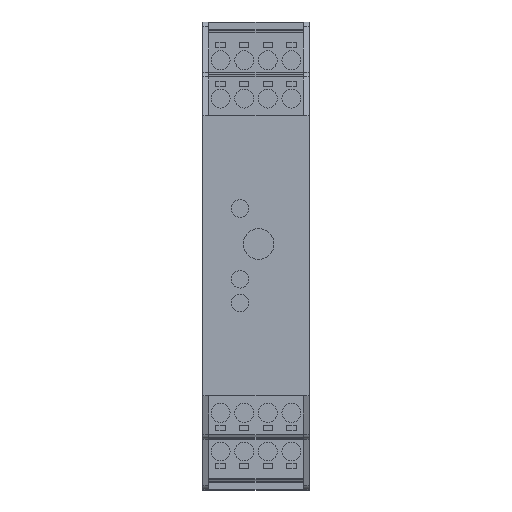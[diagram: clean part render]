
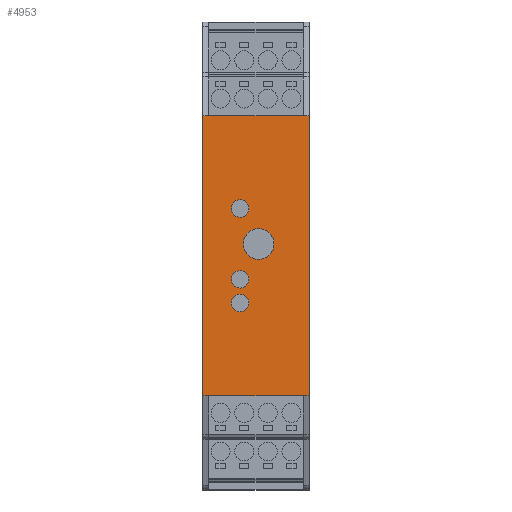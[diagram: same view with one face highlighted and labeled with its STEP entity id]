
A CAD part, top view. The second image highlights one B-rep face of the part: STEP entity #4953.
In plain terms, the highlighted planar face has unit normal (0, 0, 1).
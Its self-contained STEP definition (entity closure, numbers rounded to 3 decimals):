
#2009 = EDGE_CURVE( '', #2167, #3805, #5983, .T. );
#2109 = EDGE_CURVE( '', #5893, #4827, #6093, .T. );
#2167 = VERTEX_POINT( '', #6159 );
#2217 = VERTEX_POINT( '', #6213 );
#2679 = EDGE_CURVE( '', #4211, #5145, #6723, .T. );
#2977 = EDGE_CURVE( '', #3017, #3595, #7062, .T. );
#3017 = VERTEX_POINT( '', #7108 );
#3109 = VERTEX_POINT( '', #7210 );
#3555 = EDGE_CURVE( '', #5473, #5711, #7699, .T. );
#3561 = EDGE_CURVE( '', #5145, #3017, #7706, .T. );
#3595 = VERTEX_POINT( '', #7743 );
#3739 = VERTEX_POINT( '', #7898 );
#3757 = EDGE_CURVE( '', #3805, #2167, #7918, .T. );
#3805 = VERTEX_POINT( '', #7969 );
#4141 = EDGE_CURVE( '', #5729, #5861, #8335, .T. );
#4211 = VERTEX_POINT( '', #8412 );
#4255 = VERTEX_POINT( '', #8462 );
#4289 = EDGE_CURVE( '', #5711, #5473, #8498, .T. );
#4563 = EDGE_CURVE( '', #3109, #2217, #8811, .T. );
#4827 = VERTEX_POINT( '', #9093 );
#4915 = EDGE_CURVE( '', #4827, #5729, #9188, .T. );
#4953 = ADVANCED_FACE( '', ( #9228, #9229, #9230, #9231, #9232 ), #9233, .T. );
#5145 = VERTEX_POINT( '', #9441 );
#5215 = EDGE_CURVE( '', #3595, #5861, #9517, .T. );
#5225 = EDGE_CURVE( '', #4211, #5893, #9536, .T. );
#5227 = EDGE_CURVE( '', #2217, #3109, #9538, .T. );
#5297 = EDGE_CURVE( '', #4255, #3739, #9616, .T. );
#5473 = VERTEX_POINT( '', #9805 );
#5711 = VERTEX_POINT( '', #10090 );
#5725 = EDGE_CURVE( '', #3739, #4255, #10106, .T. );
#5729 = VERTEX_POINT( '', #10110 );
#5861 = VERTEX_POINT( '', #10259 );
#5893 = VERTEX_POINT( '', #10293 );
#5983 = CIRCLE( '', #10382, 1.85 );
#6093 = LINE( '', #10537, #10538 );
#6159 = CARTESIAN_POINT( '', ( 9.75, 10., 107.9 ) );
#6213 = CARTESIAN_POINT( '', ( 9.75, -10., 107.9 ) );
#6723 = LINE( '', #11419, #11420 );
#7062 = LINE( '', #11894, #11895 );
#7108 = CARTESIAN_POINT( '', ( 1.2, 29.6, 107.9 ) );
#7210 = CARTESIAN_POINT( '', ( 6.05, -10., 107.9 ) );
#7699 = CIRCLE( '', #12812, 3.25 );
#7706 = LINE( '', #12820, #12821 );
#7743 = CARTESIAN_POINT( '', ( 0., 29.6, 107.9 ) );
#7898 = CARTESIAN_POINT( '', ( 6.05, -5., 107.9 ) );
#7918 = CIRCLE( '', #13127, 1.85 );
#7969 = CARTESIAN_POINT( '', ( 6.05, 10., 107.9 ) );
#8335 = LINE( '', #13716, #13717 );
#8412 = CARTESIAN_POINT( '', ( 22.5, 29.6, 107.9 ) );
#8462 = CARTESIAN_POINT( '', ( 9.75, -5., 107.9 ) );
#8498 = CIRCLE( '', #13946, 3.25 );
#8811 = CIRCLE( '', #14367, 1.85 );
#9093 = CARTESIAN_POINT( '', ( 21.3, -29.6, 107.9 ) );
#9188 = LINE( '', #14898, #14899 );
#9228 = FACE_BOUND( '', #14957, .T. );
#9229 = FACE_BOUND( '', #14958, .T. );
#9230 = FACE_BOUND( '', #14959, .T. );
#9231 = FACE_BOUND( '', #14960, .T. );
#9232 = FACE_OUTER_BOUND( '', #14961, .T. );
#9233 = PLANE( '', #14962 );
#9441 = CARTESIAN_POINT( '', ( 21.3, 29.6, 107.9 ) );
#9517 = LINE( '', #15381, #15382 );
#9536 = LINE( '', #15404, #15405 );
#9538 = CIRCLE( '', #15408, 1.85 );
#9616 = CIRCLE( '', #15515, 1.85 );
#9805 = CARTESIAN_POINT( '', ( 15.05, 2.5, 107.9 ) );
#10090 = CARTESIAN_POINT( '', ( 8.55, 2.5, 107.9 ) );
#10106 = CIRCLE( '', #16204, 1.85 );
#10110 = CARTESIAN_POINT( '', ( 1.2, -29.6, 107.9 ) );
#10259 = CARTESIAN_POINT( '', ( 0., -29.6, 107.9 ) );
#10293 = CARTESIAN_POINT( '', ( 22.5, -29.6, 107.9 ) );
#10382 = AXIS2_PLACEMENT_3D( '', #16577, #16578, #16579 );
#10537 = CARTESIAN_POINT( '', ( 22.5, -29.6, 107.9 ) );
#10538 = VECTOR( '', #16699, 1. );
#11419 = CARTESIAN_POINT( '', ( 22.5, 29.6, 107.9 ) );
#11420 = VECTOR( '', #17346, 1. );
#11894 = CARTESIAN_POINT( '', ( 22.5, 29.6, 107.9 ) );
#11895 = VECTOR( '', #17734, 1. );
#12812 = AXIS2_PLACEMENT_3D( '', #18448, #18449, #18450 );
#12820 = CARTESIAN_POINT( '', ( 22.5, 29.6, 107.9 ) );
#12821 = VECTOR( '', #18459, 1. );
#13127 = AXIS2_PLACEMENT_3D( '', #18661, #18662, #18663 );
#13716 = CARTESIAN_POINT( '', ( 22.5, -29.6, 107.9 ) );
#13717 = VECTOR( '', #19066, 1. );
#13946 = AXIS2_PLACEMENT_3D( '', #19235, #19236, #19237 );
#14367 = AXIS2_PLACEMENT_3D( '', #19613, #19614, #19615 );
#14898 = CARTESIAN_POINT( '', ( 22.5, -29.6, 107.9 ) );
#14899 = VECTOR( '', #19922, 1. );
#14957 = EDGE_LOOP( '', ( #19954, #19955 ) );
#14958 = EDGE_LOOP( '', ( #19956, #19957 ) );
#14959 = EDGE_LOOP( '', ( #19958, #19959 ) );
#14960 = EDGE_LOOP( '', ( #19960, #19961 ) );
#14961 = EDGE_LOOP( '', ( #19962, #19963, #19964, #19965, #19966, #19967, #19968, #19969 ) );
#14962 = AXIS2_PLACEMENT_3D( '', #19970, #19971, #19972 );
#15381 = CARTESIAN_POINT( '', ( 0., 29.6, 107.9 ) );
#15382 = VECTOR( '', #20233, 1. );
#15404 = CARTESIAN_POINT( '', ( 22.5, 29.6, 107.9 ) );
#15405 = VECTOR( '', #20267, 1. );
#15408 = AXIS2_PLACEMENT_3D( '', #20268, #20269, #20270 );
#15515 = AXIS2_PLACEMENT_3D( '', #20361, #20362, #20363 );
#16204 = AXIS2_PLACEMENT_3D( '', #20944, #20945, #20946 );
#16577 = CARTESIAN_POINT( '', ( 7.9, 10., 107.9 ) );
#16578 = DIRECTION( '', ( 0., 0., -1. ) );
#16579 = DIRECTION( '', ( 1., 0., 0. ) );
#16699 = DIRECTION( '', ( -1., 0., 0. ) );
#17346 = DIRECTION( '', ( -1., 0., 0. ) );
#17734 = DIRECTION( '', ( -1., 0., 0. ) );
#18448 = CARTESIAN_POINT( '', ( 11.8, 2.5, 107.9 ) );
#18449 = DIRECTION( '', ( 0., 0., -1. ) );
#18450 = DIRECTION( '', ( 1., 0., 0. ) );
#18459 = DIRECTION( '', ( -1., 0., 0. ) );
#18661 = CARTESIAN_POINT( '', ( 7.9, 10., 107.9 ) );
#18662 = DIRECTION( '', ( 0., 0., -1. ) );
#18663 = DIRECTION( '', ( 1., 0., 0. ) );
#19066 = DIRECTION( '', ( -1., 0., 0. ) );
#19235 = CARTESIAN_POINT( '', ( 11.8, 2.5, 107.9 ) );
#19236 = DIRECTION( '', ( 0., 0., -1. ) );
#19237 = DIRECTION( '', ( 1., 0., 0. ) );
#19613 = CARTESIAN_POINT( '', ( 7.9, -10., 107.9 ) );
#19614 = DIRECTION( '', ( 0., 0., -1. ) );
#19615 = DIRECTION( '', ( 1., 0., 0. ) );
#19922 = DIRECTION( '', ( -1., 0., 0. ) );
#19954 = ORIENTED_EDGE( '', *, *, #3555, .T. );
#19955 = ORIENTED_EDGE( '', *, *, #4289, .T. );
#19956 = ORIENTED_EDGE( '', *, *, #2009, .T. );
#19957 = ORIENTED_EDGE( '', *, *, #3757, .T. );
#19958 = ORIENTED_EDGE( '', *, *, #5227, .T. );
#19959 = ORIENTED_EDGE( '', *, *, #4563, .T. );
#19960 = ORIENTED_EDGE( '', *, *, #5297, .T. );
#19961 = ORIENTED_EDGE( '', *, *, #5725, .T. );
#19962 = ORIENTED_EDGE( '', *, *, #5215, .T. );
#19963 = ORIENTED_EDGE( '', *, *, #4141, .F. );
#19964 = ORIENTED_EDGE( '', *, *, #4915, .F. );
#19965 = ORIENTED_EDGE( '', *, *, #2109, .F. );
#19966 = ORIENTED_EDGE( '', *, *, #5225, .F. );
#19967 = ORIENTED_EDGE( '', *, *, #2679, .T. );
#19968 = ORIENTED_EDGE( '', *, *, #3561, .T. );
#19969 = ORIENTED_EDGE( '', *, *, #2977, .T. );
#19970 = CARTESIAN_POINT( '', ( 22.5, 29.6, 107.9 ) );
#19971 = DIRECTION( '', ( 0., 0., 1. ) );
#19972 = DIRECTION( '', ( 0., 1., 0. ) );
#20233 = DIRECTION( '', ( 0., -1., 0. ) );
#20267 = DIRECTION( '', ( 0., -1., 0. ) );
#20268 = CARTESIAN_POINT( '', ( 7.9, -10., 107.9 ) );
#20269 = DIRECTION( '', ( 0., 0., -1. ) );
#20270 = DIRECTION( '', ( 1., 0., 0. ) );
#20361 = CARTESIAN_POINT( '', ( 7.9, -5., 107.9 ) );
#20362 = DIRECTION( '', ( 0., 0., -1. ) );
#20363 = DIRECTION( '', ( 1., 0., 0. ) );
#20944 = CARTESIAN_POINT( '', ( 7.9, -5., 107.9 ) );
#20945 = DIRECTION( '', ( 0., 0., -1. ) );
#20946 = DIRECTION( '', ( 1., 0., 0. ) );
